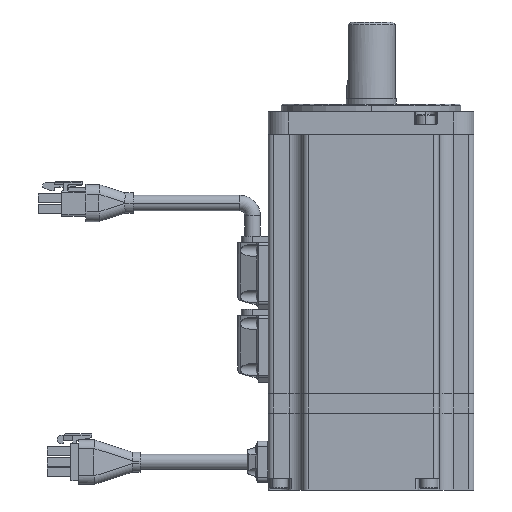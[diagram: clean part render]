
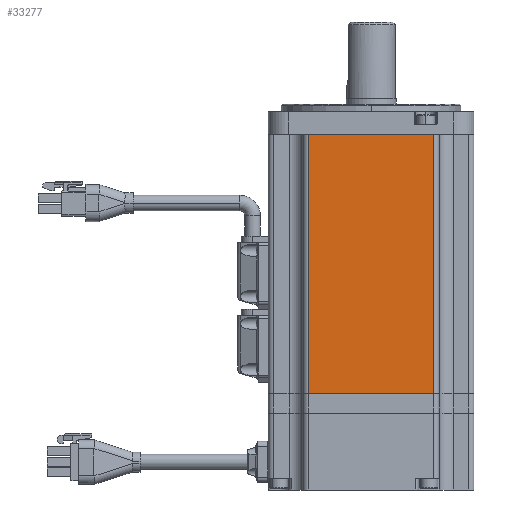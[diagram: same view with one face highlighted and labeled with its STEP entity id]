
A CAD part, left-side view. The second image highlights one B-rep face of the part: STEP entity #33277.
In plain terms, the highlighted planar face has unit normal (-1, 0, 0).
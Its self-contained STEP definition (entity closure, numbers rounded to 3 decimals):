
#10262 = AXIS2_PLACEMENT_3D ( 'NONE', #15463, #15480, #15482 ) ;
#11703 = DIRECTION ( 'NONE',  ( 0., -1., 0. ) ) ;
#11706 = CARTESIAN_POINT ( 'NONE',  ( -40.1, 40.1, 101. ) ) ;
#12017 = LINE ( 'NONE', #11706, #12021 ) ;
#12021 = VECTOR ( 'NONE', #11703, 1000. ) ;
#12057 = LINE ( 'NONE', #13202, #12059 ) ;
#12059 = VECTOR ( 'NONE', #13204, 1000. ) ;
#12093 = LINE ( 'NONE', #13321, #12095 ) ;
#12094 = LINE ( 'NONE', #13340, #12097 ) ;
#12095 = VECTOR ( 'NONE', #13323, 1000. ) ;
#12097 = VECTOR ( 'NONE', #13342, 1000. ) ;
#12372 = FACE_OUTER_BOUND ( 'NONE', #34351, .T. ) ;
#13202 = CARTESIAN_POINT ( 'NONE',  ( -40.1, 40.1, 0. ) ) ;
#13204 = DIRECTION ( 'NONE',  ( 0., -1., 0. ) ) ;
#13321 = CARTESIAN_POINT ( 'NONE',  ( -40.1, 24.5, 101. ) ) ;
#13323 = DIRECTION ( 'NONE',  ( 0., 0., -1. ) ) ;
#13340 = CARTESIAN_POINT ( 'NONE',  ( -40.1, -24.5, 101. ) ) ;
#13342 = DIRECTION ( 'NONE',  ( 0., 0., 1. ) ) ;
#14851 = CARTESIAN_POINT ( 'NONE',  ( -40.1, 24.5, 101. ) ) ;
#14852 = CARTESIAN_POINT ( 'NONE',  ( -40.1, -24.5, 101. ) ) ;
#14861 = CARTESIAN_POINT ( 'NONE',  ( -40.1, 24.5, 0. ) ) ;
#14871 = CARTESIAN_POINT ( 'NONE',  ( -40.1, -24.5, 0. ) ) ;
#15463 = CARTESIAN_POINT ( 'NONE',  ( -40.1, 40.1, 101. ) ) ;
#15476 = PLANE ( 'NONE',  #10262 ) ;
#15480 = DIRECTION ( 'NONE',  ( 1., 0., 0. ) ) ;
#15482 = DIRECTION ( 'NONE',  ( 0., 1., 0. ) ) ;
#30725 = EDGE_CURVE ( 'NONE', #32672, #32673, #12017, .T. ) ;
#30752 = EDGE_CURVE ( 'NONE', #32682, #32692, #12057, .T. ) ;
#30776 = EDGE_CURVE ( 'NONE', #32672, #32682, #12093, .T. ) ;
#30777 = EDGE_CURVE ( 'NONE', #32692, #32673, #12094, .T. ) ;
#32672 = VERTEX_POINT ( 'NONE', #14851 ) ;
#32673 = VERTEX_POINT ( 'NONE', #14852 ) ;
#32682 = VERTEX_POINT ( 'NONE', #14861 ) ;
#32692 = VERTEX_POINT ( 'NONE', #14871 ) ;
#33277 = ADVANCED_FACE ( 'NONE', ( #12372 ), #15476, .F. ) ;
#33994 = ORIENTED_EDGE ( 'NONE', *, *, #30725, .F. ) ;
#33995 = ORIENTED_EDGE ( 'NONE', *, *, #30776, .T. ) ;
#33996 = ORIENTED_EDGE ( 'NONE', *, *, #30752, .T. ) ;
#33997 = ORIENTED_EDGE ( 'NONE', *, *, #30777, .T. ) ;
#34351 = EDGE_LOOP ( 'NONE', ( #33994, #33995, #33996, #33997 ) ) ;
